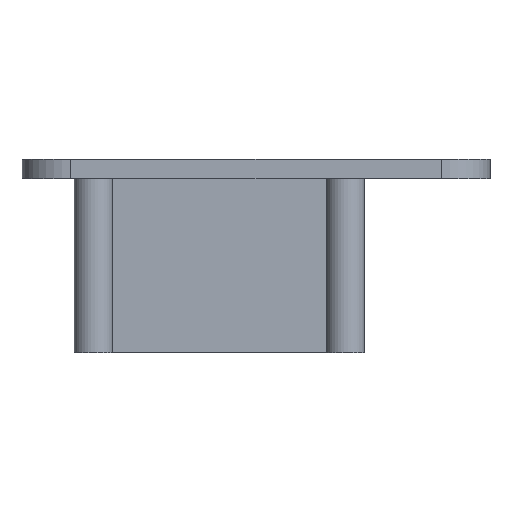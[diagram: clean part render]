
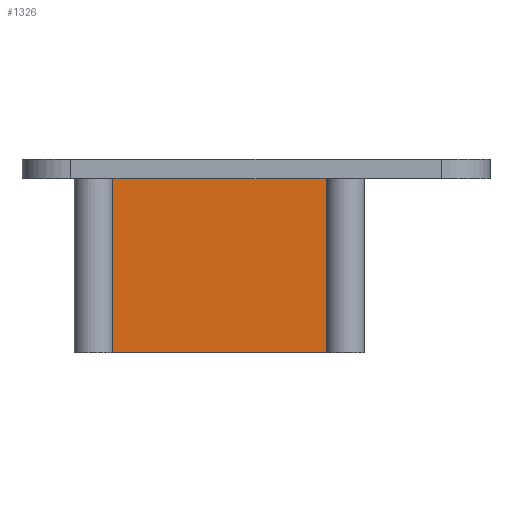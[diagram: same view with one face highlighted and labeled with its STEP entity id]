
A CAD part, front view. The second image highlights one B-rep face of the part: STEP entity #1326.
In plain terms, the highlighted planar face has unit normal (0, -1, 0).
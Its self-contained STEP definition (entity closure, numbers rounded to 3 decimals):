
#64=PLANE('',#1483);
#128=FACE_OUTER_BOUND('',#211,.T.);
#211=EDGE_LOOP('',(#1137,#1138,#1139,#1140));
#304=LINE('',#2171,#419);
#327=LINE('',#2233,#442);
#333=LINE('',#2255,#448);
#334=LINE('',#2257,#449);
#419=VECTOR('',#1774,10.);
#442=VECTOR('',#1835,10.);
#448=VECTOR('',#1855,10.);
#449=VECTOR('',#1858,10.);
#626=VERTEX_POINT('',#2168);
#627=VERTEX_POINT('',#2170);
#647=VERTEX_POINT('',#2232);
#656=VERTEX_POINT('',#2253);
#790=EDGE_CURVE('',#627,#626,#304,.T.);
#823=EDGE_CURVE('',#626,#647,#327,.T.);
#835=EDGE_CURVE('',#656,#647,#333,.T.);
#836=EDGE_CURVE('',#656,#627,#334,.T.);
#1137=ORIENTED_EDGE('',*,*,#823,.T.);
#1138=ORIENTED_EDGE('',*,*,#835,.F.);
#1139=ORIENTED_EDGE('',*,*,#836,.T.);
#1140=ORIENTED_EDGE('',*,*,#790,.T.);
#1326=ADVANCED_FACE('',(#128),#64,.T.);
#1483=AXIS2_PLACEMENT_3D('',#2258,#1859,#1860);
#1774=DIRECTION('',(1.,0.,0.));
#1835=DIRECTION('',(0.,0.,1.));
#1855=DIRECTION('',(1.,0.,0.));
#1858=DIRECTION('',(0.,0.,-1.));
#1859=DIRECTION('center_axis',(0.,-1.,0.));
#1860=DIRECTION('ref_axis',(1.,0.,0.));
#2168=CARTESIAN_POINT('',(9.473,-15.765,25.3));
#2170=CARTESIAN_POINT('',(-34.473,-15.765,25.3));
#2171=CARTESIAN_POINT('',(-38.515,-15.765,25.3));
#2232=CARTESIAN_POINT('',(9.473,-15.765,61.));
#2233=CARTESIAN_POINT('',(9.473,-15.765,25.3));
#2253=CARTESIAN_POINT('',(-34.473,-15.765,61.));
#2255=CARTESIAN_POINT('',(-21.758,-15.765,61.));
#2257=CARTESIAN_POINT('',(-34.473,-15.765,25.3));
#2258=CARTESIAN_POINT('Origin',(-38.515,-15.765,25.3));
